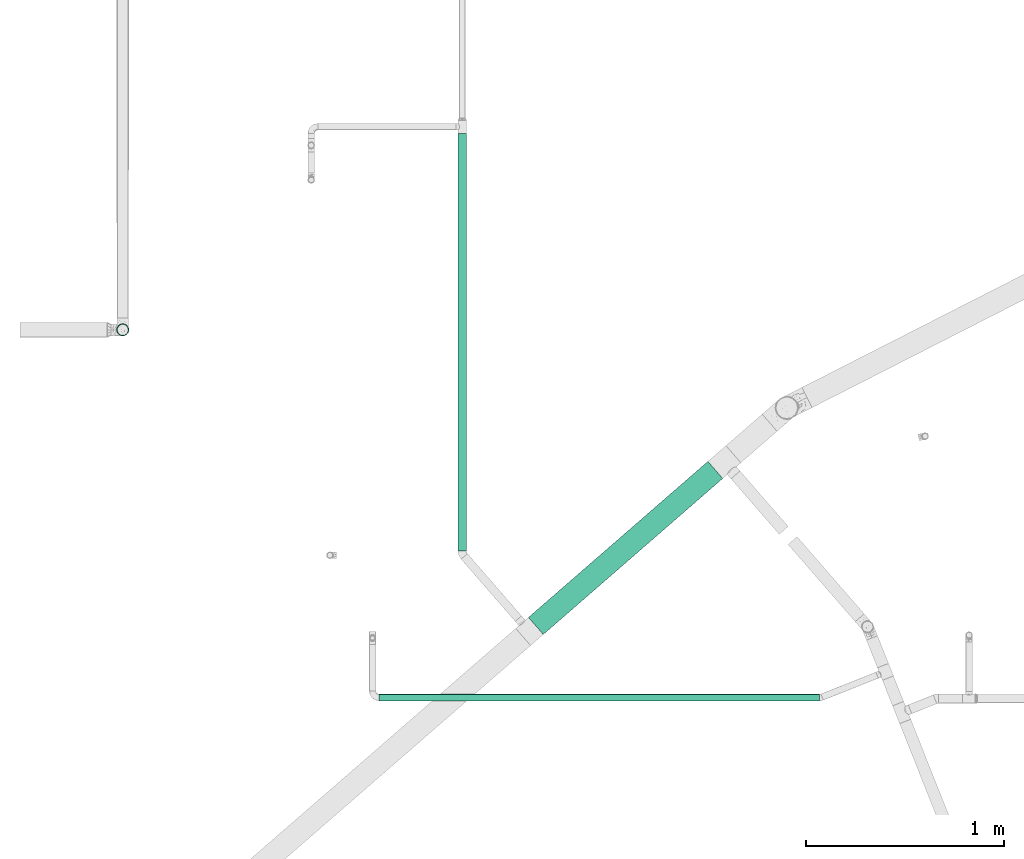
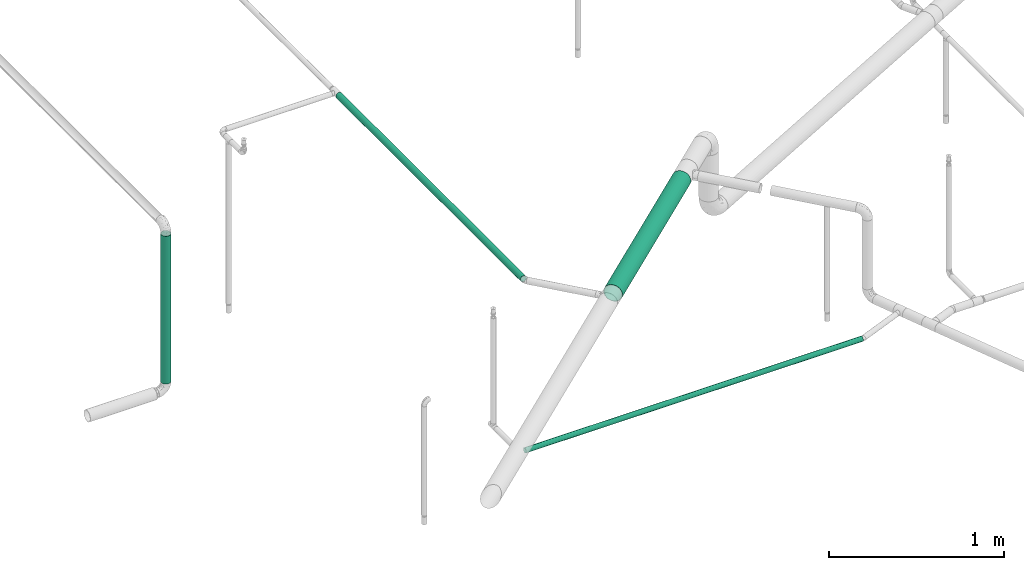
# One storey, part 2 of 94: 4 flow segments.
"""IFC2X3 building model written with IfcOpenShell, lengths in millimetres."""

from ifc_helpers import new_model, entity, si_unit, converted_unit, derived_unit, direction, frame, origin_with_axes, origin_2d_with_axis, place, context, subcontext, project, spatial, hollow_circle, extrude, source, transform, mapped, type_object, element, save


model = new_model("IFC2X3")

# Units and contexts
model_context = context("Model", 3, precision=0.01, world=frame((0.0, 4.29681676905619e-09, 0.0)), true_north=direction((4.01073788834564e-13, 1.0)))
plan_context = context("Plan", 3, precision=0.01, world=frame((0.0, 4.29681676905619e-09, 0.0)), true_north=direction((4.01073788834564e-13, 1.0)))
body_context = subcontext(model_context, "Body", "Model", "MODEL_VIEW")
ifc_project = project(units=[converted_unit("PLANEANGLEUNIT", "DEGREE", entity("IfcPositiveLengthMeasure", 0.0174532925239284), si_unit("PLANEANGLEUNIT", "RADIAN"), dimensions=[0, 0, 0, 0, 0, 0, 0]), si_unit("AREAUNIT", "SQUARE_METRE"), si_unit("LENGTHUNIT", "METRE", prefix="MILLI"), si_unit("MASSUNIT", "GRAM", prefix="KILO"), si_unit("POWERUNIT", "WATT"), si_unit("PRESSUREUNIT", "PASCAL", prefix="KILO"), si_unit("FORCEUNIT", "NEWTON", prefix="KILO"), si_unit("ELECTRICVOLTAGEUNIT", "VOLT"), si_unit("ELECTRICCURRENTUNIT", "AMPERE"), si_unit("THERMODYNAMICTEMPERATUREUNIT", "DEGREE_CELSIUS"), si_unit("TIMEUNIT", "SECOND"), si_unit("VOLUMEUNIT", "CUBIC_METRE"), derived_unit("LINEARVELOCITYUNIT", [(si_unit("LENGTHUNIT", "METRE"), 1), (si_unit("TIMEUNIT", "SECOND"), -1)]), derived_unit("VOLUMETRICFLOWRATEUNIT", [(si_unit("VOLUMEUNIT", "CUBIC_METRE"), 1), (si_unit("TIMEUNIT", "SECOND"), -1)]), derived_unit("THERMALTRANSMITTANCEUNIT", [(si_unit("POWERUNIT", "WATT"), 1), (si_unit("THERMODYNAMICTEMPERATUREUNIT", "KELVIN"), -1), (si_unit("AREAUNIT", "SQUARE_METRE"), -1)]), derived_unit("SOUNDPRESSUREUNIT", [(si_unit("PRESSUREUNIT", "PASCAL"), 1)])], contexts=[model_context, plan_context])

# Site, building, storey
site_placement = place(None, frame((0.0, -4.29681676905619e-09, 0.0), z_axis=(0.0, 0.0, 1.0), x_axis=(1.0, 0.0, 0.0)))
site = spatial("IfcSite", under=ifc_project, at=site_placement, CompositionType="ELEMENT")
building_placement = place(site_placement, frame((0.0, 4.29681676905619e-09, 0.0), z_axis=(0.0, 0.0, 1.0), x_axis=(1.0, 0.0, 0.0)))
building = spatial("IfcBuilding", under=site, at=building_placement, Name="mc-building", CompositionType="ELEMENT")
storey_placement = place(building_placement, frame((0.0, 0.0, 210900.0), z_axis=(0.0, 0.0, 1.0), x_axis=(1.0, 0.0, 0.0)))
storey = spatial("IfcBuildingStorey", under=building, at=storey_placement, Name="Nivå F", CompositionType="ELEMENT", Elevation=210900.0)

# Flow segments
pipe_segment_type = type_object("IfcPipeSegmentType", Name="Stålrør normaltykke", PredefinedType="RIGIDSEGMENT")
shared_shape_1 = source(origin_with_axes(), body_context, "Body", "SweptSolid", [
    extrude(hollow_circle(Radius=30.1, WallThickness=2.0, at=origin_2d_with_axis()), frame((0.0, 0.0, 0.0), z_axis=(1.0, 0.0, 0.0), x_axis=(0.0, 1.0, 0.0)), (0.0, 0.0, 1.0), 1029.2),
])
flow_segment_1_placement = place(storey_placement, frame((714955.83176, 442736.90247, 3410.39999999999), z_axis=(0.0, -1.0, 0.0), x_axis=(0.0, 0.0, 1.0)))
element("IfcFlowSegment", 1, at=flow_segment_1_placement, inside=storey, type_object=pipe_segment_type, Name="Stålrør normaltykke", context=body_context, shape_type="MappedRepresentation", body=[
    mapped(shared_shape_1, transform((0.0, 0.0, 0.0), scale=1.0)),
])
shared_shape_2 = source(origin_with_axes(), body_context, "Body", "SweptSolid", [
    extrude(hollow_circle(Radius=57.1, WallThickness=2.0, at=origin_2d_with_axis()), frame((0.0, 0.0, 0.0), z_axis=(1.0, 0.0, 0.0), x_axis=(0.0, 1.0, 0.0)), (0.0, 0.0, 1.0), 1198.4),
])
flow_segment_2_placement = place(storey_placement, frame((717038.09053, 441244.36395, 4200.0), z_axis=(0.0, 0.0, 1.0), x_axis=(0.754709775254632, 0.65605880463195, 0.0)))
element("IfcFlowSegment", 2, at=flow_segment_2_placement, inside=storey, type_object=pipe_segment_type, Name="Stålrør normaltykke", context=body_context, shape_type="MappedRepresentation", body=[
    mapped(shared_shape_2, transform((0.0, 0.0, 0.0), scale=1.0)),
])
shared_shape_3 = source(origin_with_axes(), body_context, "Body", "SweptSolid", [
    extrude(hollow_circle(Radius=16.9, WallThickness=2.0, at=origin_2d_with_axis()), frame((0.0, 0.0, 0.0), z_axis=(1.0, 0.0, 0.0), x_axis=(0.0, 1.0, 0.0)), (0.0, 0.0, 1.0), 2219.7),
])
flow_segment_3_placement = place(storey_placement, frame((718468.23624, 440883.45685, 3600.0), z_axis=(0.0, 0.0, 1.0), x_axis=(-1.0, 0.0, 0.0)))
element("IfcFlowSegment", 3, at=flow_segment_3_placement, inside=storey, type_object=pipe_segment_type, Name="Stålrør normaltykke", context=body_context, shape_type="MappedRepresentation", body=[
    mapped(shared_shape_3, transform((0.0, 0.0, 0.0), scale=1.0)),
])
shared_shape_4 = source(origin_with_axes(), body_context, "Body", "SweptSolid", [
    extrude(hollow_circle(Radius=21.2, WallThickness=2.0, at=origin_2d_with_axis()), frame((0.0, 0.0, 0.0), z_axis=(1.0, 0.0, 0.0), x_axis=(0.0, 1.0, 0.0)), (0.0, 0.0, 1.0), 2103.7),
])
flow_segment_4_placement = place(storey_placement, frame((716666.80992, 441622.69782, 4200.0), z_axis=(0.0, 0.0, 1.0), x_axis=(0.0, 1.0, 0.0)))
element("IfcFlowSegment", 4, at=flow_segment_4_placement, inside=storey, type_object=pipe_segment_type, Name="Stålrør normaltykke", context=body_context, shape_type="MappedRepresentation", body=[
    mapped(shared_shape_4, transform((0.0, 0.0, 0.0), scale=1.0)),
])

save(model, "model.ifc")
